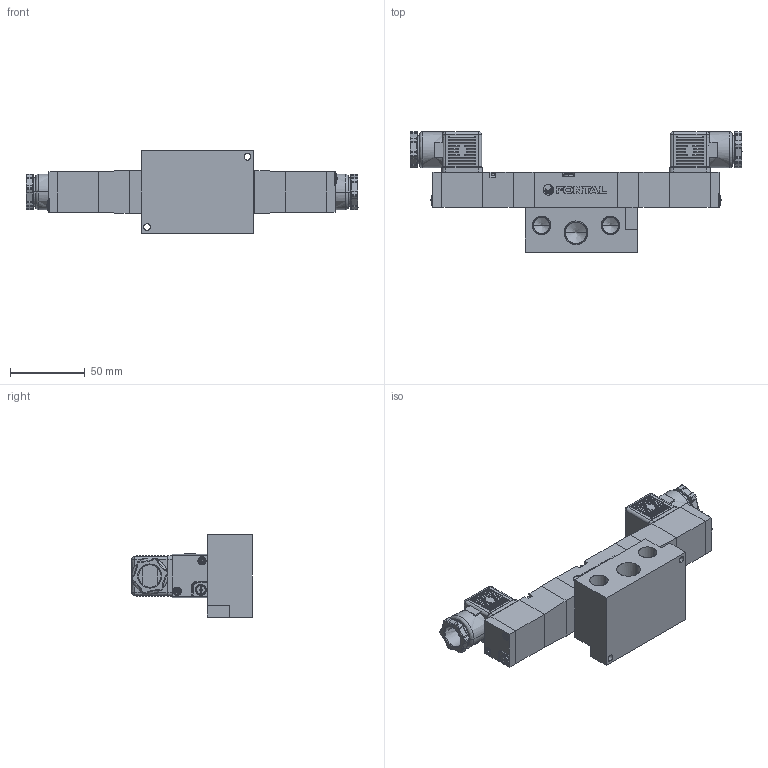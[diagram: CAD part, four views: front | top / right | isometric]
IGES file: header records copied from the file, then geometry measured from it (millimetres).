
Start section: SolidWorks IGES file using analytic representation for surfaces
Global section: file name: D:\Custom\3D繪製\PC\PC08\PCD3408#-03-#C#.IGS,1; native system: 5HSolidWorks 2014; preprocessor: SolidWorks 2014; author: Chieh_Lu; date: 150803.153225; units: millimetre
Bounding box: 221.7 x 80.64 x 55 mm (x, y, z)
Surface area: 68836 mm2 (no closed solid volume)
Topology: 0 solids, 0 shells, 1352 faces, 10902 edges, 10616 vertices
Faces by surface type: revolution 784, bspline 568
